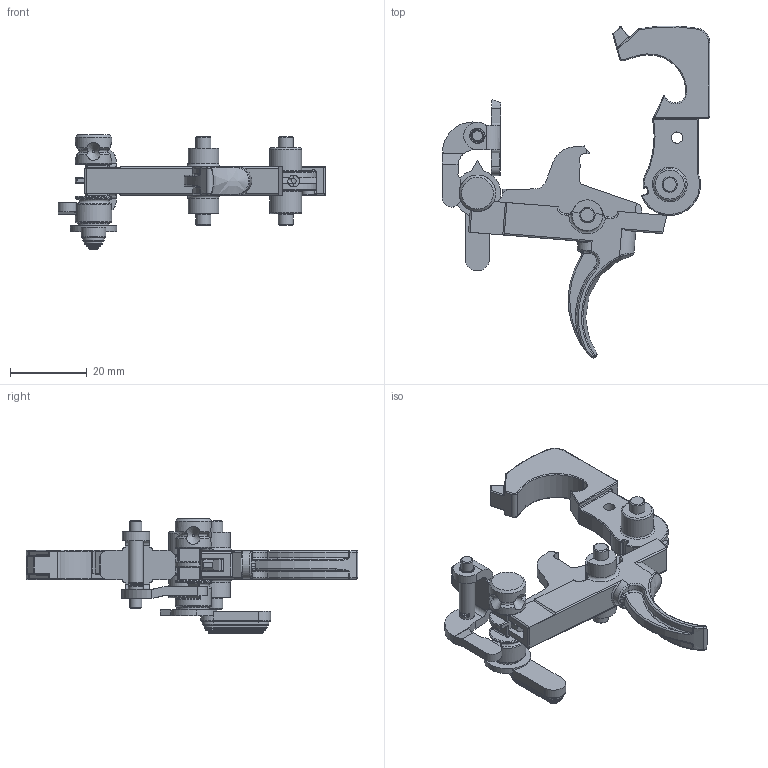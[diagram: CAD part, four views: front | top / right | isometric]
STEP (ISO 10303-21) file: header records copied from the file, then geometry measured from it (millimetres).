
FILE_DESCRIPTION(/* description */ (''),/* implementation_level */ '2;1');
FILE_NAME(/* name */ 'D:\Downloads\M16 FCG\step\M16 FCG Fosscad Semi Auto fired.stp',/* time_stamp */ '2019-01-20T20:08:15-06:00',/* author */ ('johne'),/* organization */ (''),/* preprocessor_version */ 'ST-DEVELOPER v16.13',/* originating_system */ 'Autodesk Inventor 2018',/* authorisation */ '');
FILE_SCHEMA (('AUTOMOTIVE_DESIGN { 1 0 10303 214 3 1 1 }'));
Length unit declared in the file: inch
Products named in the file (9): M16 FCG Fosscad; M16 Disco V2; Selector M16 V2; Auto Sear; Auto Trigger; M16 Hammer V6; Auto Sear Pin; Auto Sear Bushing; Hammer Pin
Assembly tree (9 placements, depth 2):
  M16 FCG Fosscad
    M16 Disco V2
    Selector M16 V2
    Auto Sear
    Auto Trigger
    M16 Hammer V6
    Auto Sear Pin
    Auto Sear Bushing
    Hammer Pin  x2
Bounding box: 69.56 x 86.28 x 29.74 mm (x, y, z)
Volume: 12147.6 mm3; surface area: 11227.7 mm2
Topology: 10 solids, 10 shells, 591 faces, 1439 edges, 856 vertices
Faces by surface type: cylinder 206, plane 173, torus 101, bspline 70, sphere 25, cone 16
Full cylindrical faces by diameter (mm): 2.946 x1, 3.023 x1, 3.124 x3, 3.188 x1, 3.95 x2, 3.962 x3, 3.969 x6, 4.013 x2, 4.216 x1, 7.986 x2, 8.255 x1, 8.28 x2, 9.474 x4
Entity records: 26117 total; most frequent: CARTESIAN_POINT 12580, DIRECTION 2848, ORIENTED_EDGE 2680, EDGE_CURVE 1340, AXIS2_PLACEMENT_3D 1142, VERTEX_POINT 831, EDGE_LOOP 659, FACE_OUTER_BOUND 582
